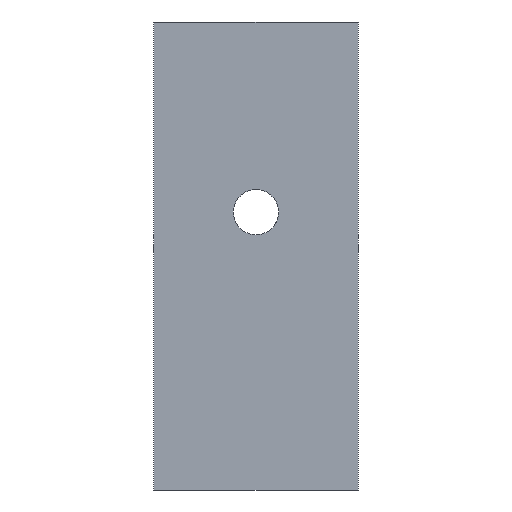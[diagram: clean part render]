
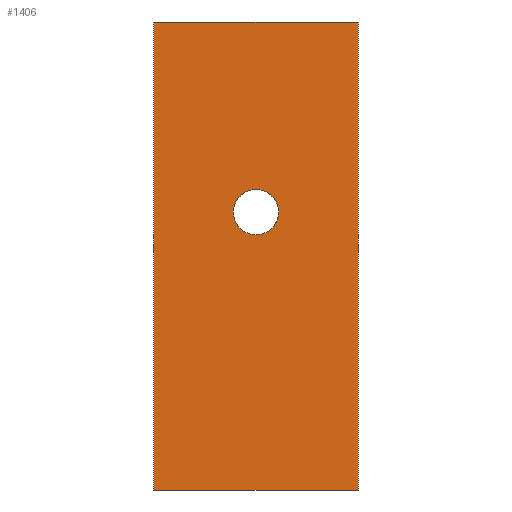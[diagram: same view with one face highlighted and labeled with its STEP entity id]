
A CAD part, left-side view. The second image highlights one B-rep face of the part: STEP entity #1406.
In plain terms, the highlighted planar face has unit normal (-1, 0, 0).
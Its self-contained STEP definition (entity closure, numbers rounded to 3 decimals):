
#269 = PLANE('',#270);
#270 = AXIS2_PLACEMENT_3D('',#271,#272,#273);
#271 = CARTESIAN_POINT('',(1145.111,1046.416,1108.896
    ));
#272 = DIRECTION('',(0.,0.,-1.));
#273 = DIRECTION('',(0.,-1.,0.));
#297 = PLANE('',#298);
#298 = AXIS2_PLACEMENT_3D('',#299,#300,#301);
#299 = CARTESIAN_POINT('',(1145.111,1046.416,1140.896
    ));
#300 = DIRECTION('',(0.,-1.,0.));
#301 = DIRECTION('',(0.,0.,-1.));
#325 = PLANE('',#326);
#326 = AXIS2_PLACEMENT_3D('',#327,#328,#329);
#327 = CARTESIAN_POINT('',(1145.111,1046.416,1140.896
    ));
#328 = DIRECTION('',(0.,0.,-1.));
#329 = DIRECTION('',(0.,-1.,0.));
#458 = PLANE('',#459);
#459 = AXIS2_PLACEMENT_3D('',#460,#461,#462);
#460 = CARTESIAN_POINT('',(1145.111,1032.416,1140.896
    ));
#461 = DIRECTION('',(0.,-1.,0.));
#462 = DIRECTION('',(0.,0.,-1.));
#777 = CYLINDRICAL_SURFACE('',#778,1.55);
#778 = AXIS2_PLACEMENT_3D('',#779,#780,#781);
#779 = CARTESIAN_POINT('',(1145.011,1039.416,1127.896
    ));
#780 = DIRECTION('',(1.,0.,0.));
#781 = DIRECTION('',(0.,-1.,0.));
#839 = EDGE_CURVE('',#840,#842,#844,.T.);
#840 = VERTEX_POINT('',#841);
#841 = CARTESIAN_POINT('',(1145.111,1046.416,1108.896
    ));
#842 = VERTEX_POINT('',#843);
#843 = CARTESIAN_POINT('',(1145.111,1032.416,1108.896
    ));
#844 = SURFACE_CURVE('',#845,(#849,#856),.PCURVE_S1.);
#845 = LINE('',#846,#847);
#846 = CARTESIAN_POINT('',(1145.111,1046.416,1108.896
    ));
#847 = VECTOR('',#848,1.);
#848 = DIRECTION('',(0.,-1.,0.));
#849 = PCURVE('',#269,#850);
#850 = DEFINITIONAL_REPRESENTATION('',(#851),#855);
#851 = LINE('',#852,#853);
#852 = CARTESIAN_POINT('',(0.,0.));
#853 = VECTOR('',#854,1.);
#854 = DIRECTION('',(1.,0.));
#855 = ( GEOMETRIC_REPRESENTATION_CONTEXT(2) 
PARAMETRIC_REPRESENTATION_CONTEXT() REPRESENTATION_CONTEXT('2D SPACE',''
  ) );
#856 = PCURVE('',#857,#862);
#857 = PLANE('',#858);
#858 = AXIS2_PLACEMENT_3D('',#859,#860,#861);
#859 = CARTESIAN_POINT('',(1145.111,1046.416,1140.896
    ));
#860 = DIRECTION('',(1.,0.,0.));
#861 = DIRECTION('',(0.,-1.,0.));
#862 = DEFINITIONAL_REPRESENTATION('',(#863),#867);
#863 = LINE('',#864,#865);
#864 = CARTESIAN_POINT('',(0.,32.));
#865 = VECTOR('',#866,1.);
#866 = DIRECTION('',(1.,0.));
#867 = ( GEOMETRIC_REPRESENTATION_CONTEXT(2) 
PARAMETRIC_REPRESENTATION_CONTEXT() REPRESENTATION_CONTEXT('2D SPACE',''
  ) );
#916 = VERTEX_POINT('',#917);
#917 = CARTESIAN_POINT('',(1145.111,1046.416,1140.896
    ));
#938 = EDGE_CURVE('',#916,#840,#939,.T.);
#939 = SURFACE_CURVE('',#940,(#944,#951),.PCURVE_S1.);
#940 = LINE('',#941,#942);
#941 = CARTESIAN_POINT('',(1145.111,1046.416,1140.896
    ));
#942 = VECTOR('',#943,1.);
#943 = DIRECTION('',(0.,0.,-1.));
#944 = PCURVE('',#297,#945);
#945 = DEFINITIONAL_REPRESENTATION('',(#946),#950);
#946 = LINE('',#947,#948);
#947 = CARTESIAN_POINT('',(0.,0.));
#948 = VECTOR('',#949,1.);
#949 = DIRECTION('',(1.,0.));
#950 = ( GEOMETRIC_REPRESENTATION_CONTEXT(2) 
PARAMETRIC_REPRESENTATION_CONTEXT() REPRESENTATION_CONTEXT('2D SPACE',''
  ) );
#951 = PCURVE('',#857,#952);
#952 = DEFINITIONAL_REPRESENTATION('',(#953),#957);
#953 = LINE('',#954,#955);
#954 = CARTESIAN_POINT('',(0.,0.));
#955 = VECTOR('',#956,1.);
#956 = DIRECTION('',(0.,1.));
#957 = ( GEOMETRIC_REPRESENTATION_CONTEXT(2) 
PARAMETRIC_REPRESENTATION_CONTEXT() REPRESENTATION_CONTEXT('2D SPACE',''
  ) );
#964 = EDGE_CURVE('',#916,#965,#967,.T.);
#965 = VERTEX_POINT('',#966);
#966 = CARTESIAN_POINT('',(1145.111,1032.416,1140.896
    ));
#967 = SURFACE_CURVE('',#968,(#972,#979),.PCURVE_S1.);
#968 = LINE('',#969,#970);
#969 = CARTESIAN_POINT('',(1145.111,1046.416,1140.896
    ));
#970 = VECTOR('',#971,1.);
#971 = DIRECTION('',(0.,-1.,0.));
#972 = PCURVE('',#325,#973);
#973 = DEFINITIONAL_REPRESENTATION('',(#974),#978);
#974 = LINE('',#975,#976);
#975 = CARTESIAN_POINT('',(0.,0.));
#976 = VECTOR('',#977,1.);
#977 = DIRECTION('',(1.,0.));
#978 = ( GEOMETRIC_REPRESENTATION_CONTEXT(2) 
PARAMETRIC_REPRESENTATION_CONTEXT() REPRESENTATION_CONTEXT('2D SPACE',''
  ) );
#979 = PCURVE('',#857,#980);
#980 = DEFINITIONAL_REPRESENTATION('',(#981),#985);
#981 = LINE('',#982,#983);
#982 = CARTESIAN_POINT('',(0.,0.));
#983 = VECTOR('',#984,1.);
#984 = DIRECTION('',(1.,0.));
#985 = ( GEOMETRIC_REPRESENTATION_CONTEXT(2) 
PARAMETRIC_REPRESENTATION_CONTEXT() REPRESENTATION_CONTEXT('2D SPACE',''
  ) );
#1215 = EDGE_CURVE('',#965,#842,#1216,.T.);
#1216 = SURFACE_CURVE('',#1217,(#1221,#1228),.PCURVE_S1.);
#1217 = LINE('',#1218,#1219);
#1218 = CARTESIAN_POINT('',(1145.111,1032.416,
    1140.896));
#1219 = VECTOR('',#1220,1.);
#1220 = DIRECTION('',(0.,0.,-1.));
#1221 = PCURVE('',#458,#1222);
#1222 = DEFINITIONAL_REPRESENTATION('',(#1223),#1227);
#1223 = LINE('',#1224,#1225);
#1224 = CARTESIAN_POINT('',(0.,0.));
#1225 = VECTOR('',#1226,1.);
#1226 = DIRECTION('',(1.,0.));
#1227 = ( GEOMETRIC_REPRESENTATION_CONTEXT(2) 
PARAMETRIC_REPRESENTATION_CONTEXT() REPRESENTATION_CONTEXT('2D SPACE',''
  ) );
#1228 = PCURVE('',#857,#1229);
#1229 = DEFINITIONAL_REPRESENTATION('',(#1230),#1234);
#1230 = LINE('',#1231,#1232);
#1231 = CARTESIAN_POINT('',(14.,0.));
#1232 = VECTOR('',#1233,1.);
#1233 = DIRECTION('',(0.,1.));
#1234 = ( GEOMETRIC_REPRESENTATION_CONTEXT(2) 
PARAMETRIC_REPRESENTATION_CONTEXT() REPRESENTATION_CONTEXT('2D SPACE',''
  ) );
#1359 = VERTEX_POINT('',#1360);
#1360 = CARTESIAN_POINT('',(1145.111,1037.866,
    1127.896));
#1385 = EDGE_CURVE('',#1359,#1359,#1386,.T.);
#1386 = SURFACE_CURVE('',#1387,(#1392,#1399),.PCURVE_S1.);
#1387 = CIRCLE('',#1388,1.55);
#1388 = AXIS2_PLACEMENT_3D('',#1389,#1390,#1391);
#1389 = CARTESIAN_POINT('',(1145.111,1039.416,
    1127.896));
#1390 = DIRECTION('',(1.,0.,0.));
#1391 = DIRECTION('',(0.,-1.,0.));
#1392 = PCURVE('',#777,#1393);
#1393 = DEFINITIONAL_REPRESENTATION('',(#1394),#1398);
#1394 = LINE('',#1395,#1396);
#1395 = CARTESIAN_POINT('',(0.,0.1));
#1396 = VECTOR('',#1397,1.);
#1397 = DIRECTION('',(1.,0.));
#1398 = ( GEOMETRIC_REPRESENTATION_CONTEXT(2) 
PARAMETRIC_REPRESENTATION_CONTEXT() REPRESENTATION_CONTEXT('2D SPACE',''
  ) );
#1399 = PCURVE('',#857,#1400);
#1400 = DEFINITIONAL_REPRESENTATION('',(#1401),#1405);
#1401 = CIRCLE('',#1402,1.55);
#1402 = AXIS2_PLACEMENT_2D('',#1403,#1404);
#1403 = CARTESIAN_POINT('',(7.,13.));
#1404 = DIRECTION('',(1.,0.));
#1405 = ( GEOMETRIC_REPRESENTATION_CONTEXT(2) 
PARAMETRIC_REPRESENTATION_CONTEXT() REPRESENTATION_CONTEXT('2D SPACE',''
  ) );
#1406 = ADVANCED_FACE('',(#1407,#1413),#857,.F.);
#1407 = FACE_BOUND('',#1408,.F.);
#1408 = EDGE_LOOP('',(#1409,#1410,#1411,#1412));
#1409 = ORIENTED_EDGE('',*,*,#938,.F.);
#1410 = ORIENTED_EDGE('',*,*,#964,.T.);
#1411 = ORIENTED_EDGE('',*,*,#1215,.T.);
#1412 = ORIENTED_EDGE('',*,*,#839,.F.);
#1413 = FACE_BOUND('',#1414,.F.);
#1414 = EDGE_LOOP('',(#1415));
#1415 = ORIENTED_EDGE('',*,*,#1385,.F.);
